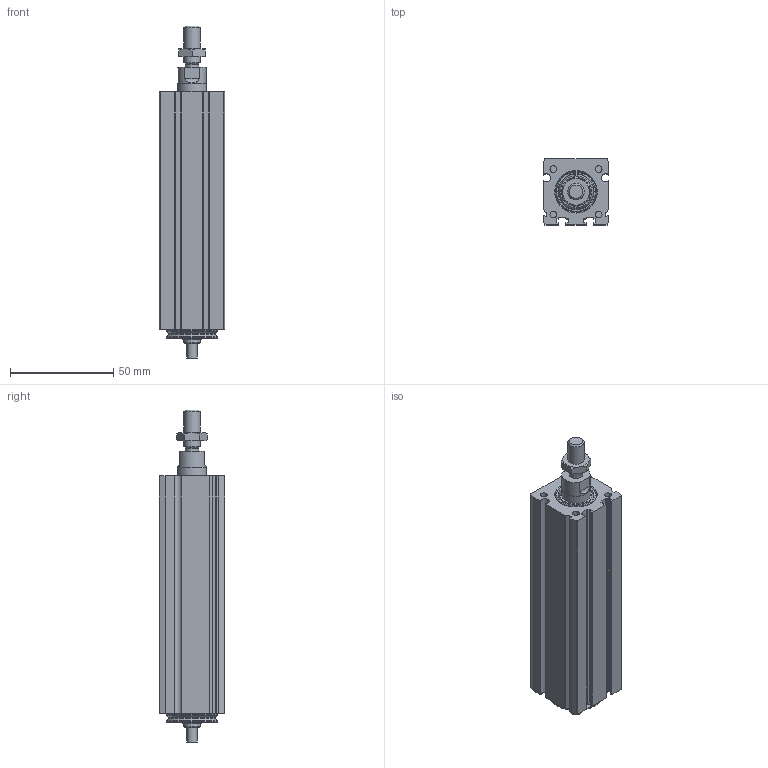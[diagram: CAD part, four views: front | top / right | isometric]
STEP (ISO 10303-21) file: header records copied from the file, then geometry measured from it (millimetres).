
FILE_DESCRIPTION(/* description */ ('STEP AP214'),/* implementation_level */ '2;1');
FILE_NAME(/* name */ 'MCE 32 0802 50 0(0)',/* time_stamp */ '2023-10-05T14:05:55+02:00',/* author */ ('License CC BY-ND 4.0'),/* organization */ ('CADENAS'),/* preprocessor_version */ 'ST-DEVELOPER v19.3',/* originating_system */ 'PARTsolutions',/* authorisation */ ' ');
FILE_SCHEMA (('AUTOMOTIVE_DESIGN {1 0 10303 214 3 1 1}'));
Length unit declared in the file: millimetre
Products named in the file (4): MCE 32 0802 50  0(0); 32_nut; 32(500)_rod; 32(50)_msc
Assembly tree (3 placements, depth 2):
  MCE 32 0802 50  0(0)
    32_nut
    32(500)_rod
    32(50)_msc
Bounding box: 32 x 32 x 161 mm (x, y, z)
Volume: 97803.7 mm3; surface area: 39262 mm2
Topology: 3 solids, 3 shells, 205 faces, 503 edges, 326 vertices
Faces by surface type: cylinder 89, plane 88, cone 23, torus 5
Full cylindrical faces by diameter (mm): 2.459 x4, 3.242 x4, 5 x1, 6.5 x1, 6.647 x1, 8 x2, 10 x1, 13.8 x1, 14 x2, 17.46 x1, 19.5 x1, 24.5 x2, 25 x2
Entity records: 6017 total; most frequent: CARTESIAN_POINT 1087, DIRECTION 1064, ORIENTED_EDGE 924, EDGE_CURVE 462, AXIS2_PLACEMENT_3D 419, VERTEX_POINT 324, EDGE_LOOP 268, FACE_BOUND 268
